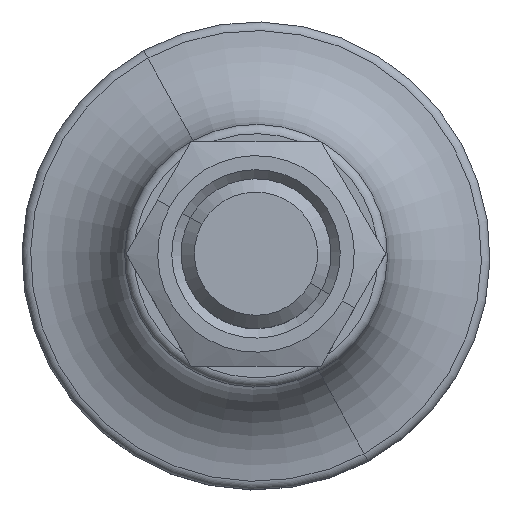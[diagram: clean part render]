
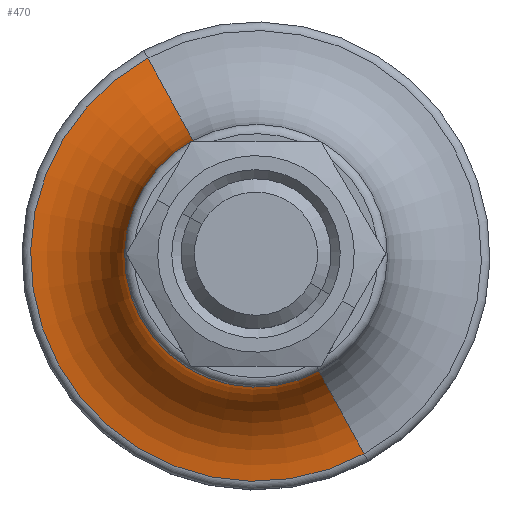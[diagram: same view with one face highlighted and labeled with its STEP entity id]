
A CAD part, top view. The second image highlights one B-rep face of the part: STEP entity #470.
In plain terms, the highlighted toroidal (fillet/blend) face has major radius 25 mm and minor radius 11 mm.
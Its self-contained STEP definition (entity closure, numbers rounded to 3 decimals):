
#61=CARTESIAN_POINT('Vertex',(11.546,-21.135,-10.962)) ;
#77=CARTESIAN_POINT('Vertex',(-11.546,21.135,-10.962)) ;
#102=CARTESIAN_POINT('Axis2P3D Location',(0.,0.,-10.962)) ;
#428=CARTESIAN_POINT('Axis2P3D Location',(0.,0.,0.)) ;
#437=CARTESIAN_POINT('Vertex',(6.73,-12.32,-0.917)) ;
#439=CARTESIAN_POINT('Vertex',(-6.73,12.32,-0.917)) ;
#442=CARTESIAN_POINT('Axis2P3D Location',(11.986,-21.94,0.)) ;
#447=CARTESIAN_POINT('Axis2P3D Location',(-11.986,21.94,0.)) ;
#459=CARTESIAN_POINT('Axis2P3D Location',(0.,0.,-0.917)) ;
#103=DIRECTION('Axis2P3D Direction',(0.,-0.,1.)) ;
#429=DIRECTION('Axis2P3D Direction',(0.,0.,1.)) ;
#430=DIRECTION('Axis2P3D XDirection',(-0.479,0.878,0.)) ;
#443=DIRECTION('Axis2P3D Direction',(-0.878,-0.479,0.)) ;
#448=DIRECTION('Axis2P3D Direction',(0.878,0.479,-0.)) ;
#460=DIRECTION('Axis2P3D Direction',(0.,0.,1.)) ;
#104=AXIS2_PLACEMENT_3D('Circle Axis2P3D',#102,#103,$) ;
#431=AXIS2_PLACEMENT_3D('Torus Axis2P3D',#428,#429,#430) ;
#444=AXIS2_PLACEMENT_3D('Circle Axis2P3D',#442,#443,$) ;
#449=AXIS2_PLACEMENT_3D('Circle Axis2P3D',#447,#448,$) ;
#461=AXIS2_PLACEMENT_3D('Circle Axis2P3D',#459,#460,$) ;
#465=ORIENTED_EDGE('',*,*,#463,.F.) ;
#466=ORIENTED_EDGE('',*,*,#451,.F.) ;
#467=ORIENTED_EDGE('',*,*,#106,.T.) ;
#468=ORIENTED_EDGE('',*,*,#446,.T.) ;
#470=ADVANCED_FACE('PartBody',(#469),#432,.F.) ;
#105=CIRCLE('generated circle',#104,24.083) ;
#445=CIRCLE('generated circle',#444,11.) ;
#450=CIRCLE('generated circle',#449,11.) ;
#462=CIRCLE('generated circle',#461,14.038) ;
#432=TOROIDAL_SURFACE('homeo Torus',#431,25.,11.) ;
#106=EDGE_CURVE('',#78,#62,#105,.T.) ;
#446=EDGE_CURVE('',#62,#438,#445,.F.) ;
#451=EDGE_CURVE('',#78,#440,#450,.F.) ;
#463=EDGE_CURVE('',#440,#438,#462,.T.) ;
#464=EDGE_LOOP('',(#465,#466,#467,#468)) ;
#469=FACE_OUTER_BOUND('',#464,.T.) ;
#62=VERTEX_POINT('',#61) ;
#78=VERTEX_POINT('',#77) ;
#438=VERTEX_POINT('',#437) ;
#440=VERTEX_POINT('',#439) ;
